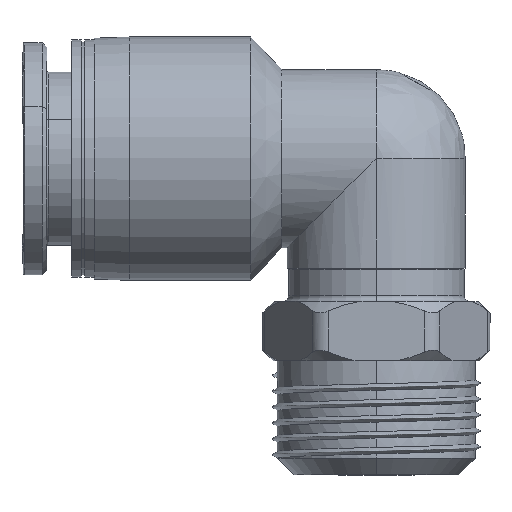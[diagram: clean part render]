
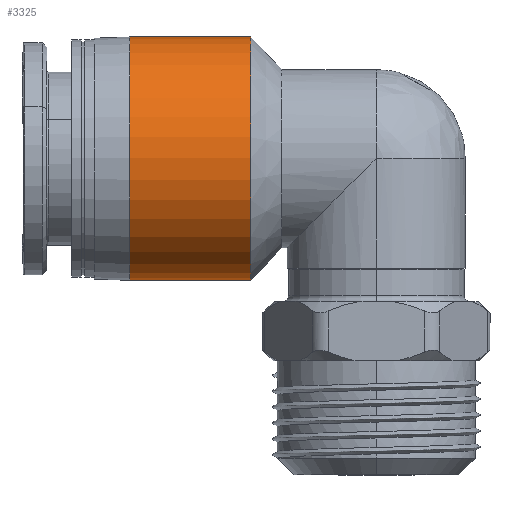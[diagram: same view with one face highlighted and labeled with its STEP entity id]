
A CAD part, top view. The second image highlights one B-rep face of the part: STEP entity #3325.
In plain terms, the highlighted cylindrical face has radius 10.25 mm (diameter 20.5 mm), a partial arc.
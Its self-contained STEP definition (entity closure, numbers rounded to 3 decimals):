
#184 = VERTEX_POINT ( 'NONE', #6555 ) ;
#748 = EDGE_CURVE ( 'NONE', #184, #5498, #5034, .T. ) ;
#911 = LINE ( 'NONE', #4819, #6104 ) ;
#2357 = CARTESIAN_POINT ( 'NONE',  ( 0., 0., 0. ) ) ;
#2386 = CARTESIAN_POINT ( 'NONE',  ( 10.2, 10.25, 0. ) ) ;
#2410 = AXIS2_PLACEMENT_3D ( 'NONE', #2357, #7027, #3040 ) ;
#2798 = CARTESIAN_POINT ( 'NONE',  ( -4.9, 10.25, 0. ) ) ;
#2979 = DIRECTION ( 'NONE',  ( 0., -1., 0. ) ) ;
#3040 = DIRECTION ( 'NONE',  ( 0., -1., 0. ) ) ;
#3325 = ADVANCED_FACE ( 'NONE', ( #3759 ), #8638, .T. ) ;
#3759 = FACE_OUTER_BOUND ( 'NONE', #8111, .T. ) ;
#4032 = ORIENTED_EDGE ( 'NONE', *, *, #5625, .T. ) ;
#4269 = ORIENTED_EDGE ( 'NONE', *, *, #6469, .F. ) ;
#4819 = CARTESIAN_POINT ( 'NONE',  ( -4.9, -10.25, 0. ) ) ;
#4888 = ORIENTED_EDGE ( 'NONE', *, *, #7794, .T. ) ;
#5034 = CIRCLE ( 'NONE', #2410, 10.25 ) ;
#5173 = AXIS2_PLACEMENT_3D ( 'NONE', #6259, #5587, #2979 ) ;
#5382 = LINE ( 'NONE', #2798, #7884 ) ;
#5415 = DIRECTION ( 'NONE',  ( -1., 0., 0. ) ) ;
#5498 = VERTEX_POINT ( 'NONE', #7736 ) ;
#5587 = DIRECTION ( 'NONE',  ( -1., 0., 0. ) ) ;
#5625 = EDGE_CURVE ( 'NONE', #7178, #5498, #5382, .T. ) ;
#5722 = CARTESIAN_POINT ( 'NONE',  ( 10.2, 0., 0. ) ) ;
#5792 = CIRCLE ( 'NONE', #6857, 10.25 ) ;
#6104 = VECTOR ( 'NONE', #5415, 1000. ) ;
#6259 = CARTESIAN_POINT ( 'NONE',  ( -4.9, 0., 0. ) ) ;
#6469 = EDGE_CURVE ( 'NONE', #7126, #184, #911, .T. ) ;
#6555 = CARTESIAN_POINT ( 'NONE',  ( 0., -10.25, 0. ) ) ;
#6566 = DIRECTION ( 'NONE',  ( -1., 0., 0. ) ) ;
#6857 = AXIS2_PLACEMENT_3D ( 'NONE', #5722, #7013, #8321 ) ;
#7013 = DIRECTION ( 'NONE',  ( -1., 0., 0. ) ) ;
#7027 = DIRECTION ( 'NONE',  ( -1., 0., 0. ) ) ;
#7126 = VERTEX_POINT ( 'NONE', #8365 ) ;
#7178 = VERTEX_POINT ( 'NONE', #2386 ) ;
#7736 = CARTESIAN_POINT ( 'NONE',  ( 0., 10.25, 0. ) ) ;
#7794 = EDGE_CURVE ( 'NONE', #7126, #7178, #5792, .T. ) ;
#7884 = VECTOR ( 'NONE', #6566, 1000. ) ;
#8111 = EDGE_LOOP ( 'NONE', ( #4888, #4032, #8293, #4269 ) ) ;
#8293 = ORIENTED_EDGE ( 'NONE', *, *, #748, .F. ) ;
#8321 = DIRECTION ( 'NONE',  ( 0., -1., 0. ) ) ;
#8365 = CARTESIAN_POINT ( 'NONE',  ( 10.2, -10.25, 0. ) ) ;
#8638 = CYLINDRICAL_SURFACE ( 'NONE', #5173, 10.25 ) ;
